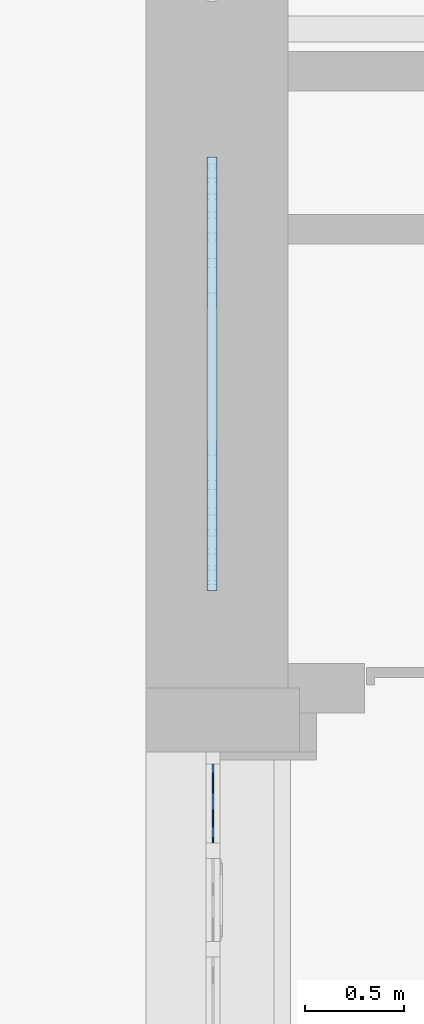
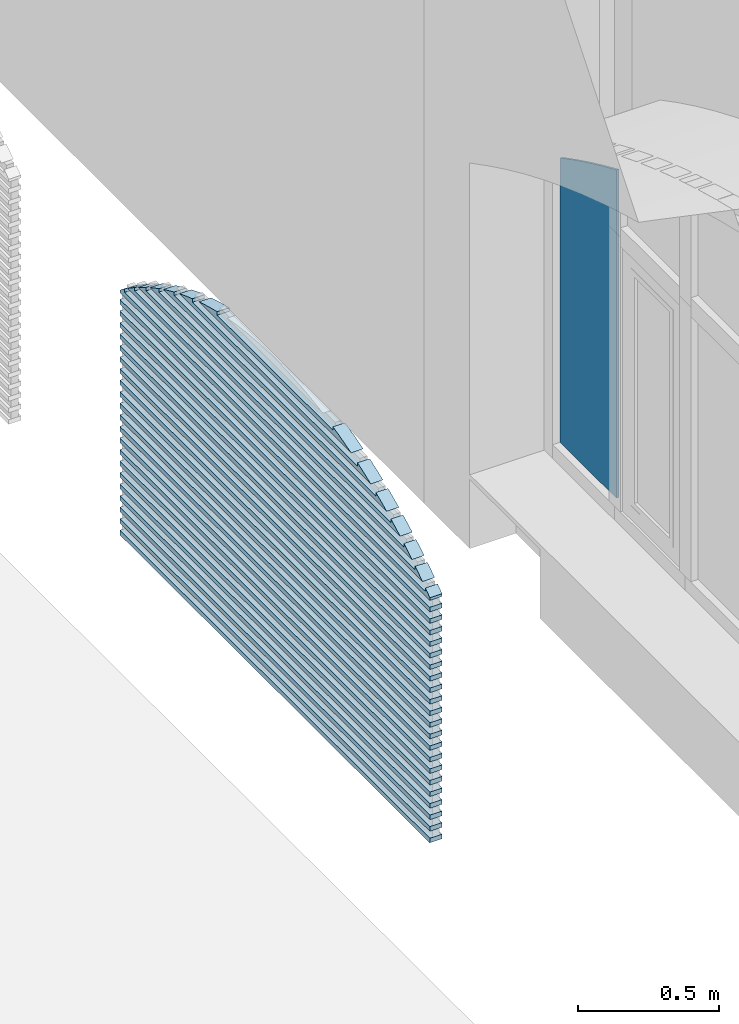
# One storey, part 59 of 88: 29 plates, 2 elements without a shape of their own.
"""IFC2X3 building model written with IfcOpenShell, lengths in millimetres."""

from ifc_helpers import new_model, entity, si_unit, converted_unit, derived_unit, direction, frame, frame_2d, origin, origin_2d_with_axis, place, context, subcontext, project, spatial, polyline, circle_curve, parameter, trimmed, segment, composite_curve, rectangle, outline, extrude, source, transform, mapped, material, type_object, type_shapes, element, aggregate, save


model = new_model("IFC2X3")

# Units and contexts
model_context = context("Model", 3, precision=0.01, world=origin(), true_north=direction((6.123031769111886e-17, 1.0)))
body_context = subcontext(model_context, "Body", "Model", "MODEL_VIEW")
ifc_project = project(units=[si_unit("LENGTHUNIT", "METRE", prefix="MILLI"), si_unit("AREAUNIT", "SQUARE_METRE"), si_unit("VOLUMEUNIT", "CUBIC_METRE"), converted_unit("PLANEANGLEUNIT", "DEGREE", entity("IfcPlaneAngleMeasure", 0.017453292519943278), si_unit("PLANEANGLEUNIT", "RADIAN"), dimensions=[0, 0, 0, 0, 0, 0, 0]), si_unit("MASSUNIT", "GRAM", prefix="KILO"), derived_unit("MASSDENSITYUNIT", [(si_unit("MASSUNIT", "GRAM", prefix="KILO"), 1), (si_unit("LENGTHUNIT", "METRE"), -3)]), derived_unit("IONCONCENTRATIONUNIT", [(si_unit("MASSUNIT", "GRAM", prefix="KILO"), 1), (si_unit("LENGTHUNIT", "METRE"), -3)]), derived_unit("MOMENTOFINERTIAUNIT", [(si_unit("LENGTHUNIT", "METRE"), 4)]), si_unit("TIMEUNIT", "SECOND"), si_unit("FREQUENCYUNIT", "HERTZ"), si_unit("THERMODYNAMICTEMPERATUREUNIT", "DEGREE_CELSIUS"), derived_unit("THERMALTRANSMITTANCEUNIT", [(si_unit("MASSUNIT", "GRAM", prefix="KILO"), 1), (si_unit("THERMODYNAMICTEMPERATUREUNIT", "KELVIN"), -1), (si_unit("TIMEUNIT", "SECOND"), -3)]), derived_unit("THERMALCONDUCTANCEUNIT", [(si_unit("MASSUNIT", "GRAM", prefix="KILO"), 1), (si_unit("THERMODYNAMICTEMPERATUREUNIT", "KELVIN"), -1), (si_unit("TIMEUNIT", "SECOND"), -3), (si_unit("LENGTHUNIT", "METRE"), 1)]), derived_unit("VOLUMETRICFLOWRATEUNIT", [(si_unit("LENGTHUNIT", "METRE", prefix="DECI"), 3), (si_unit("TIMEUNIT", "SECOND"), -1)]), derived_unit("MASSFLOWRATEUNIT", [(si_unit("MASSUNIT", "GRAM", prefix="KILO"), 1), (si_unit("TIMEUNIT", "SECOND"), -1)]), derived_unit("ROTATIONALFREQUENCYUNIT", [(si_unit("TIMEUNIT", "SECOND"), -1)]), si_unit("ELECTRICCURRENTUNIT", "AMPERE"), si_unit("ELECTRICVOLTAGEUNIT", "VOLT"), si_unit("POWERUNIT", "WATT"), si_unit("FORCEUNIT", "NEWTON", prefix="KILO"), si_unit("ILLUMINANCEUNIT", "LUX"), si_unit("LUMINOUSFLUXUNIT", "LUMEN"), si_unit("LUMINOUSINTENSITYUNIT", "CANDELA"), si_unit("ENERGYUNIT", "JOULE"), derived_unit("USERDEFINED", [(si_unit("MASSUNIT", "GRAM", prefix="KILO"), -1), (si_unit("LENGTHUNIT", "METRE"), -2), (si_unit("TIMEUNIT", "SECOND"), 3), (si_unit("LUMINOUSFLUXUNIT", "LUMEN"), 1)]), derived_unit("USERDEFINED", [(si_unit("MASSUNIT", "GRAM", prefix="KILO"), 1), (si_unit("TIMEUNIT", "SECOND"), -3), (si_unit("LENGTHUNIT", "METRE"), 3), (si_unit("ELECTRICCURRENTUNIT", "AMPERE"), -2)]), derived_unit("SOUNDPOWERUNIT", [(si_unit("MASSUNIT", "GRAM", prefix="KILO"), 1), (si_unit("TIMEUNIT", "SECOND"), -3), (si_unit("LENGTHUNIT", "METRE"), 2)]), derived_unit("SOUNDPRESSUREUNIT", [(si_unit("MASSUNIT", "GRAM", prefix="KILO"), 1), (si_unit("LENGTHUNIT", "METRE"), -1), (si_unit("TIMEUNIT", "SECOND"), -2)]), derived_unit("LINEARVELOCITYUNIT", [(si_unit("LENGTHUNIT", "METRE"), 1), (si_unit("TIMEUNIT", "SECOND"), -1)]), si_unit("PRESSUREUNIT", "PASCAL"), derived_unit("USERDEFINED", [(si_unit("MASSUNIT", "GRAM", prefix="KILO"), 1), (si_unit("LENGTHUNIT", "METRE"), -2), (si_unit("TIMEUNIT", "SECOND"), -2)]), derived_unit("LINEARFORCEUNIT", [(si_unit("MASSUNIT", "GRAM", prefix="KILO"), 1), (si_unit("TIMEUNIT", "SECOND"), -2)]), derived_unit("PLANARFORCEUNIT", [(si_unit("MASSUNIT", "GRAM", prefix="KILO"), 1), (si_unit("LENGTHUNIT", "METRE"), -1), (si_unit("TIMEUNIT", "SECOND"), -2)]), derived_unit("SPECIFICHEATCAPACITYUNIT", [(si_unit("THERMODYNAMICTEMPERATUREUNIT", "KELVIN"), -1), (si_unit("LENGTHUNIT", "METRE"), 2), (si_unit("TIMEUNIT", "SECOND"), -2)]), derived_unit("HEATFLUXDENSITYUNIT", [(si_unit("MASSUNIT", "GRAM", prefix="KILO"), 1), (si_unit("TIMEUNIT", "SECOND"), -3)]), derived_unit("HEATINGVALUEUNIT", [(si_unit("LENGTHUNIT", "METRE"), 2), (si_unit("TIMEUNIT", "SECOND"), -2)]), derived_unit("VAPORPERMEABILITYUNIT", [(si_unit("LENGTHUNIT", "METRE"), -1), (si_unit("TIMEUNIT", "SECOND"), 1)]), derived_unit("DYNAMICVISCOSITYUNIT", [(si_unit("MASSUNIT", "GRAM", prefix="KILO"), 1), (si_unit("TIMEUNIT", "SECOND"), -1), (si_unit("LENGTHUNIT", "METRE"), -1)]), derived_unit("THERMALEXPANSIONCOEFFICIENTUNIT", [(si_unit("THERMODYNAMICTEMPERATUREUNIT", "KELVIN"), -1)]), derived_unit("MODULUSOFELASTICITYUNIT", [(si_unit("MASSUNIT", "GRAM", prefix="KILO"), 1), (si_unit("LENGTHUNIT", "METRE"), -1), (si_unit("TIMEUNIT", "SECOND"), -2)]), derived_unit("ISOTHERMALMOISTURECAPACITYUNIT", [(si_unit("MASSUNIT", "GRAM", prefix="KILO"), -1), (si_unit("LENGTHUNIT", "METRE"), 3)]), derived_unit("MOISTUREDIFFUSIVITYUNIT", [(si_unit("TIMEUNIT", "SECOND"), -1), (si_unit("LENGTHUNIT", "METRE"), 2)]), derived_unit("MASSPERLENGTHUNIT", [(si_unit("MASSUNIT", "GRAM", prefix="KILO"), 1), (si_unit("LENGTHUNIT", "METRE"), -1)]), derived_unit("THERMALRESISTANCEUNIT", [(si_unit("MASSUNIT", "GRAM", prefix="KILO"), -1), (si_unit("TIMEUNIT", "SECOND"), 3), (si_unit("THERMODYNAMICTEMPERATUREUNIT", "KELVIN"), 1)]), derived_unit("ACCELERATIONUNIT", [(si_unit("LENGTHUNIT", "METRE"), 1), (si_unit("TIMEUNIT", "SECOND"), -2)]), derived_unit("ANGULARVELOCITYUNIT", [(si_unit("TIMEUNIT", "SECOND"), -1), (si_unit("PLANEANGLEUNIT", "RADIAN"), 1)]), derived_unit("LINEARSTIFFNESSUNIT", [(si_unit("MASSUNIT", "GRAM", prefix="KILO"), 1), (si_unit("TIMEUNIT", "SECOND"), -2)]), derived_unit("WARPINGCONSTANTUNIT", [(si_unit("LENGTHUNIT", "METRE"), 6)]), derived_unit("LINEARMOMENTUNIT", [(si_unit("MASSUNIT", "GRAM", prefix="KILO"), 1), (si_unit("LENGTHUNIT", "METRE"), 1), (si_unit("TIMEUNIT", "SECOND"), -2)]), derived_unit("TORQUEUNIT", [(si_unit("MASSUNIT", "GRAM", prefix="KILO"), 1), (si_unit("LENGTHUNIT", "METRE"), 2), (si_unit("TIMEUNIT", "SECOND"), -2)])], contexts=[model_context])

# Site, building, storey
site_placement = place(None, origin())
site = spatial("IfcSite", under=ifc_project, at=site_placement, Name="Default", CompositionType="ELEMENT")
building_placement = place(site_placement, origin())
building = spatial("IfcBuilding", under=site, at=building_placement, Name="Eesti Rahvusraamatukogu hoone renoveerimise projekteerimistööd", CompositionType="ELEMENT")
storey_placement = place(building_placement, origin())
storey = spatial("IfcBuildingStorey", under=building, at=storey_placement, Name="1. korrus", CompositionType="ELEMENT", Elevation=0.0)

# Curtain wall, plates
curtain_wall_type_1 = type_object("IfcCurtainWallType", Name="Curtain Wall:ol. olev MK vent. rest", PredefinedType="NOTDEFINED")
curtain_wall_1_placement = place(storey_placement, origin())
curtain_wall_1 = element("IfcCurtainWall", 1, at=curtain_wall_1_placement, inside=storey, type_object=curtain_wall_type_1, Name="Curtain Wall:ol. olev MK vent. rest", ObjectType="Curtain Wall:ol. olev MK vent. rest")
ifc_material_1 = material(Name="LUMION_dark steel window frames")
plate_type_1 = type_object("IfcPlateType", Name="System Panel:Solid", PredefinedType="CURTAIN_PANEL", material=ifc_material_1)
shared_shape_1 = source(origin(), body_context, "Body", "SweptSolid", [
    extrude(rectangle(XDim=50.0, YDim=2200.0000000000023, at=origin_2d_with_axis()), frame((0.0, 0.0, 0.0), z_axis=(0.0, 0.0, 1.0), x_axis=(0.0, 1.0, 0.0)), (0.0, 0.0, 1.0), 19.999999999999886),
])
type_shapes(plate_type_1, [shared_shape_1])
plate_1_placement = place(curtain_wall_1_placement, frame((-36445.0, 25910.0, -230.0), z_axis=(0.0, 0.0, 1.0), x_axis=(0.0, -1.0, 0.0)))
plate_1 = element("IfcPlate", 2, at=plate_1_placement, type_object=plate_type_1, material=ifc_material_1, Name="System Panel:Solid", ObjectType="System Panel:Solid", context=body_context, shape_type="MappedRepresentation", body=[
    mapped(shared_shape_1, transform((0.0, 0.0, 0.0), scale=1.0)),
])
plate_2_placement = place(curtain_wall_1_placement, frame((-36445.0, 25910.0, -180.0), z_axis=(0.0, 0.0, 1.0), x_axis=(0.0, -1.0, 0.0)))
plate_2 = element("IfcPlate", 3, at=plate_2_placement, type_object=plate_type_1, material=ifc_material_1, Name="System Panel:Solid", ObjectType="System Panel:Solid", context=body_context, shape_type="MappedRepresentation", body=[
    mapped(shared_shape_1, transform((0.0, 0.0, 0.0), scale=1.0)),
])
plate_3_placement = place(curtain_wall_1_placement, frame((-36445.0, 25910.0, -130.0), z_axis=(0.0, 0.0, 1.0), x_axis=(0.0, -1.0, 0.0)))
plate_3 = element("IfcPlate", 4, at=plate_3_placement, type_object=plate_type_1, material=ifc_material_1, Name="System Panel:Solid", ObjectType="System Panel:Solid", context=body_context, shape_type="MappedRepresentation", body=[
    mapped(shared_shape_1, transform((0.0, 0.0, 0.0), scale=1.0)),
])
plate_4_placement = place(curtain_wall_1_placement, frame((-36445.0, 25910.0, -80.0), z_axis=(0.0, 0.0, 1.0), x_axis=(0.0, -1.0, 0.0)))
plate_4 = element("IfcPlate", 5, at=plate_4_placement, type_object=plate_type_1, material=ifc_material_1, Name="System Panel:Solid", ObjectType="System Panel:Solid", context=body_context, shape_type="MappedRepresentation", body=[
    mapped(shared_shape_1, transform((0.0, 0.0, 0.0), scale=1.0)),
])
plate_5_placement = place(curtain_wall_1_placement, frame((-36445.0, 25910.0, -30.0), z_axis=(0.0, 0.0, 1.0), x_axis=(0.0, -1.0, 0.0)))
plate_5 = element("IfcPlate", 6, at=plate_5_placement, type_object=plate_type_1, material=ifc_material_1, Name="System Panel:Solid", ObjectType="System Panel:Solid", context=body_context, shape_type="MappedRepresentation", body=[
    mapped(shared_shape_1, transform((0.0, 0.0, 0.0), scale=1.0)),
])
plate_6_placement = place(curtain_wall_1_placement, frame((-36445.0, 25910.0, 20.0), z_axis=(0.0, 0.0, 1.0), x_axis=(0.0, -1.0, 0.0)))
plate_6 = element("IfcPlate", 7, at=plate_6_placement, type_object=plate_type_1, material=ifc_material_1, Name="System Panel:Solid", ObjectType="System Panel:Solid", context=body_context, shape_type="MappedRepresentation", body=[
    mapped(shared_shape_1, transform((0.0, 0.0, 0.0), scale=1.0)),
])
plate_7_placement = place(curtain_wall_1_placement, frame((-36445.0, 25910.0, 70.0), z_axis=(0.0, 0.0, 1.0), x_axis=(0.0, -1.0, 0.0)))
plate_7 = element("IfcPlate", 8, at=plate_7_placement, type_object=plate_type_1, material=ifc_material_1, Name="System Panel:Solid", ObjectType="System Panel:Solid", context=body_context, shape_type="MappedRepresentation", body=[
    mapped(shared_shape_1, transform((0.0, 0.0, 0.0), scale=1.0)),
])
plate_8_placement = place(curtain_wall_1_placement, frame((-36445.0, 25910.0, 120.0), z_axis=(0.0, 0.0, 1.0), x_axis=(0.0, -1.0, 0.0)))
plate_8 = element("IfcPlate", 9, at=plate_8_placement, type_object=plate_type_1, material=ifc_material_1, Name="System Panel:Solid", ObjectType="System Panel:Solid", context=body_context, shape_type="MappedRepresentation", body=[
    mapped(shared_shape_1, transform((0.0, 0.0, 0.0), scale=1.0)),
])
plate_9_placement = place(curtain_wall_1_placement, frame((-36445.0, 25910.0, 170.0), z_axis=(0.0, 0.0, 1.0), x_axis=(0.0, -1.0, 0.0)))
plate_9 = element("IfcPlate", 10, at=plate_9_placement, type_object=plate_type_1, material=ifc_material_1, Name="System Panel:Solid", ObjectType="System Panel:Solid", context=body_context, shape_type="MappedRepresentation", body=[
    mapped(shared_shape_1, transform((0.0, 0.0, 0.0), scale=1.0)),
])
plate_10_placement = place(curtain_wall_1_placement, frame((-36445.0, 25910.0, 220.0), z_axis=(0.0, 0.0, 1.0), x_axis=(0.0, -1.0, 0.0)))
plate_10 = element("IfcPlate", 11, at=plate_10_placement, type_object=plate_type_1, material=ifc_material_1, Name="System Panel:Solid", ObjectType="System Panel:Solid", context=body_context, shape_type="MappedRepresentation", body=[
    mapped(shared_shape_1, transform((0.0, 0.0, 0.0), scale=1.0)),
])
plate_11_placement = place(curtain_wall_1_placement, frame((-36445.0, 25910.0, 270.0), z_axis=(0.0, 0.0, 1.0), x_axis=(0.0, -1.0, 0.0)))
plate_11 = element("IfcPlate", 12, at=plate_11_placement, type_object=plate_type_1, material=ifc_material_1, Name="System Panel:Solid", ObjectType="System Panel:Solid", context=body_context, shape_type="MappedRepresentation", body=[
    mapped(shared_shape_1, transform((0.0, 0.0, 0.0), scale=1.0)),
])
plate_12_placement = place(curtain_wall_1_placement, frame((-36445.0, 25910.0, 320.0), z_axis=(0.0, 0.0, 1.0), x_axis=(0.0, -1.0, 0.0)))
plate_12 = element("IfcPlate", 13, at=plate_12_placement, type_object=plate_type_1, material=ifc_material_1, Name="System Panel:Solid", ObjectType="System Panel:Solid", context=body_context, shape_type="MappedRepresentation", body=[
    mapped(shared_shape_1, transform((0.0, 0.0, 0.0), scale=1.0)),
])
plate_13_placement = place(curtain_wall_1_placement, frame((-36445.0, 25910.0, 370.0), z_axis=(0.0, 0.0, 1.0), x_axis=(0.0, -1.0, 0.0)))
plate_13 = element("IfcPlate", 14, at=plate_13_placement, type_object=plate_type_1, material=ifc_material_1, Name="System Panel:Solid", ObjectType="System Panel:Solid", context=body_context, shape_type="MappedRepresentation", body=[
    mapped(shared_shape_1, transform((0.0, 0.0, 0.0), scale=1.0)),
])
plate_14_placement = place(curtain_wall_1_placement, frame((-36445.0, 25910.0, 420.0), z_axis=(0.0, 0.0, 1.0), x_axis=(0.0, -1.0, 0.0)))
plate_14 = element("IfcPlate", 15, at=plate_14_placement, type_object=plate_type_1, material=ifc_material_1, Name="System Panel:Solid", ObjectType="System Panel:Solid", context=body_context, shape_type="MappedRepresentation", body=[
    mapped(shared_shape_1, transform((0.0, 0.0, 0.0), scale=1.0)),
])
plate_15_placement = place(curtain_wall_1_placement, frame((-36445.0, 25910.0, 470.0), z_axis=(0.0, 0.0, 1.0), x_axis=(0.0, -1.0, 0.0)))
plate_15 = element("IfcPlate", 16, at=plate_15_placement, type_object=plate_type_1, material=ifc_material_1, Name="System Panel:Solid", ObjectType="System Panel:Solid", context=body_context, shape_type="MappedRepresentation", body=[
    mapped(shared_shape_1, transform((0.0, 0.0, 0.0), scale=1.0)),
])
plate_16_placement = place(curtain_wall_1_placement, frame((-36445.0, 25910.0, 520.0), z_axis=(0.0, 0.0, 1.0), x_axis=(0.0, -1.0, 0.0)))
plate_16 = element("IfcPlate", 17, at=plate_16_placement, type_object=plate_type_1, material=ifc_material_1, Name="System Panel:Solid", ObjectType="System Panel:Solid", context=body_context, shape_type="MappedRepresentation", body=[
    mapped(shared_shape_1, transform((0.0, 0.0, 0.0), scale=1.0)),
])
plate_17_placement = place(curtain_wall_1_placement, frame((-36445.0, 25910.0, 570.0), z_axis=(0.0, 0.0, 1.0), x_axis=(0.0, -1.0, 0.0)))
plate_17 = element("IfcPlate", 18, at=plate_17_placement, type_object=plate_type_1, material=ifc_material_1, Name="System Panel:Solid", ObjectType="System Panel:Solid", context=body_context, shape_type="MappedRepresentation", body=[
    mapped(shared_shape_1, transform((0.0, 0.0, 0.0), scale=1.0)),
])
plate_18_placement = place(curtain_wall_1_placement, frame((-36445.0, 25910.0, 620.0), z_axis=(0.0, 0.0, 1.0), x_axis=(0.0, -1.0, 0.0)))
plate_18 = element("IfcPlate", 19, at=plate_18_placement, type_object=plate_type_1, material=ifc_material_1, Name="System Panel:Solid", ObjectType="System Panel:Solid", context=body_context, shape_type="MappedRepresentation", body=[
    mapped(shared_shape_1, transform((0.0, 0.0, 0.0), scale=1.0)),
])
plate_19_placement = place(curtain_wall_1_placement, frame((-36445.0, 25910.0, 670.0), z_axis=(0.0, 0.0, 1.0), x_axis=(0.0, -1.0, 0.0)))
plate_19 = element("IfcPlate", 20, at=plate_19_placement, type_object=plate_type_1, material=ifc_material_1, Name="System Panel:Solid", ObjectType="System Panel:Solid", context=body_context, shape_type="MappedRepresentation", body=[
    mapped(shared_shape_1, transform((0.0, 0.0, 0.0), scale=1.0)),
])
plate_20_placement = place(curtain_wall_1_placement, frame((-36445.0, 25910.0, 720.0), z_axis=(0.0, 0.0, 1.0), x_axis=(0.0, -1.0, 0.0)))
plate_20 = element("IfcPlate", 21, at=plate_20_placement, type_object=plate_type_1, material=ifc_material_1, Name="System Panel:Solid", ObjectType="System Panel:Solid", context=body_context, shape_type="MappedRepresentation", body=[
    mapped(shared_shape_1, transform((0.0, 0.0, 0.0), scale=1.0)),
])
plate_21_placement = place(curtain_wall_1_placement, frame((-36445.0, 25910.0, 770.0), z_axis=(0.0, 0.0, 1.0), x_axis=(0.0, -1.0, 0.0)))
plate_21 = element("IfcPlate", 22, at=plate_21_placement, type_object=plate_type_1, material=ifc_material_1, Name="System Panel:Solid", ObjectType="System Panel:Solid", context=body_context, shape_type="MappedRepresentation", body=[
    mapped(shared_shape_1, transform((0.0, 0.0, 0.0), scale=1.0)),
])
plate_type_2 = type_object("IfcPlateType", Name="System Panel:Solid", PredefinedType="CURTAIN_PANEL", material=ifc_material_1)
shared_shape_2 = source(origin(), body_context, "Body", "SweptSolid", [
    extrude(outline(composite_curve([segment(polyline([(-16.44483337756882, -1100.5114047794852), (-6.444833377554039, -1100.5114047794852)]), True, "CONTINUOUS"), segment(trimmed(circle_curve(frame_2d((-1449.322804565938, 0.5114047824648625), x_axis=(0.8087576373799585, -0.5881420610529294)), 1814.9788061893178), [parameter(358.6789588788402)], [parameter(0.0)], True, "PARAMETER"), True, "CONTINUOUS"), segment(polyline([(18.555166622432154, -1066.9539710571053), (3.555166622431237, -1066.9539710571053)]), True, "CONTINUOUS"), segment(polyline([(3.555166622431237, -1066.9539710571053), (3.555166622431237, 1067.9767806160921)]), True, "CONTINUOUS"), segment(polyline([(3.555166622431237, 1067.9767806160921), (18.55516662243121, 1067.9767806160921)]), True, "CONTINUOUS"), segment(trimmed(circle_curve(frame_2d((-1449.3228045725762, 0.5114047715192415), x_axis=(0.7958421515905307, 0.6055041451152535)), 1814.9788061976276), [parameter(358.7601452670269)], [parameter(0.0)], True, "PARAMETER"), True, "CONTINUOUS"), segment(polyline([(-4.886166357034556, 1099.4885952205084), (-16.44483337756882, 1099.4885952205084)]), True, "CONTINUOUS"), segment(polyline([(-16.44483337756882, 1099.4885952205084), (-16.44483337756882, -1100.5114047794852)]), True, "CONTINUOUS")], self_intersect=False)), frame((0.5114047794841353, -25.0, 16.44483337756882), z_axis=(0.0, 1.0, 0.0), x_axis=(0.0, 0.0, 1.0)), (0.0, 0.0, 1.0), 50.0),
])
type_shapes(plate_type_2, [shared_shape_2])
plate_22_placement = place(curtain_wall_1_placement, frame((-36445.0, 25910.0, 820.0), z_axis=(0.0, 0.0, 1.0), x_axis=(0.0, -1.0, 0.0)))
plate_22 = element("IfcPlate", 23, at=plate_22_placement, type_object=plate_type_2, material=ifc_material_1, Name="System Panel:Solid", ObjectType="System Panel:Solid", context=body_context, shape_type="MappedRepresentation", body=[
    mapped(shared_shape_2, transform((0.0, 0.0, 0.0), scale=1.0)),
])
plate_type_3 = type_object("IfcPlateType", Name="System Panel:Solid", PredefinedType="CURTAIN_PANEL", material=ifc_material_1)
shared_shape_3 = source(origin(), body_context, "Body", "SweptSolid", [
    extrude(outline(composite_curve([segment(trimmed(circle_curve(frame_2d((-1255.4722740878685, -823.058169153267), x_axis=(1.0, 0.0)), 1814.9788061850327), [parameter(358.0357142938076)], [parameter(0.0)], True, "PARAMETER"), True, "CONTINUOUS"), segment(polyline([(559.5065320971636, -823.0581691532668), (546.9619395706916, -831.282109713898)]), True, "CONTINUOUS"), segment(polyline([(546.9619395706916, -831.282109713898), (-544.174252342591, 833.1096520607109)]), True, "CONTINUOUS"), segment(polyline([(-544.174252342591, 833.1096520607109), (-531.6296598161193, 841.3335926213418)]), True, "CONTINUOUS"), segment(trimmed(circle_curve(frame_2d((-1255.4722740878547, -823.0581691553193), x_axis=(0.35391264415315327, 0.9352784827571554)), 1814.9788061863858), [parameter(357.2226348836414)], [parameter(359.1869205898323)], True, "PARAMETER"), True, "CONTINUOUS"), segment(polyline([(-589.1045861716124, 865.1663927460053), (558.4400266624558, -885.2693585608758)]), True, "CONTINUOUS")], self_intersect=False)), frame((0.0, -25.0, 18.333333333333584), z_axis=(0.0, 1.0, 0.0), x_axis=(-0.5482627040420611, 0.0, 0.8363061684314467)), (0.0, 0.0, 1.0), 50.0),
])
type_shapes(plate_type_3, [shared_shape_3])
plate_23_placement = place(curtain_wall_1_placement, frame((-36445.0, 25908.977190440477, 870.0), z_axis=(0.0, 0.0, 1.0), x_axis=(0.0, -1.0, 0.0)))
plate_23 = element("IfcPlate", 24, at=plate_23_placement, type_object=plate_type_3, material=ifc_material_1, Name="System Panel:Solid", ObjectType="System Panel:Solid", context=body_context, shape_type="MappedRepresentation", body=[
    mapped(shared_shape_3, transform((0.0, 0.0, 0.0), scale=1.0)),
])
plate_type_4 = type_object("IfcPlateType", Name="System Panel:Solid", PredefinedType="CURTAIN_PANEL", material=ifc_material_1)
shared_shape_4 = source(origin(), body_context, "Body", "SweptSolid", [
    extrude(outline(composite_curve([segment(trimmed(circle_curve(frame_2d((-1340.021175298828, -781.4088309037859), x_axis=(1.0, 0.0)), 1814.978806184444), [parameter(357.87378894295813)], [parameter(0.0)], True, "PARAMETER"), True, "CONTINUOUS"), segment(polyline([(474.95763088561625, -781.4088309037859), (461.99981039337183, -788.9649468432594)]), True, "CONTINUOUS"), segment(polyline([(461.99981039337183, -788.9649468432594), (-459.1202947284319, 790.6440837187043)]), True, "CONTINUOUS"), segment(polyline([(-459.1202947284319, 790.6440837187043), (-446.16247423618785, 798.2001996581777)]), True, "CONTINUOUS"), segment(trimmed(circle_curve(frame_2d((-1340.021175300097, -781.4088309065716), x_axis=(0.4462645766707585, 0.8949010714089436)), 1814.9788061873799), [parameter(356.99990824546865)], [parameter(359.12611930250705)], True, "PARAMETER"), True, "CONTINUOUS"), segment(polyline([(-505.38273719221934, 830.2756123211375), (473.70806487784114, -848.746117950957)]), True, "CONTINUOUS")], self_intersect=False)), frame((0.0, -25.0, 18.33333333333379), z_axis=(0.0, 1.0, 0.0), x_axis=(-0.5037410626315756, 0.0, 0.8638546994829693)), (0.0, 0.0, 1.0), 49.999999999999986),
])
type_shapes(plate_type_4, [shared_shape_4])
plate_24_placement = place(curtain_wall_1_placement, frame((-36445.0, 25908.977190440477, 920.0), z_axis=(0.0, 0.0, 1.0), x_axis=(0.0, -1.0, 0.0)))
plate_24 = element("IfcPlate", 25, at=plate_24_placement, type_object=plate_type_4, material=ifc_material_1, Name="System Panel:Solid", ObjectType="System Panel:Solid", context=body_context, shape_type="MappedRepresentation", body=[
    mapped(shared_shape_4, transform((0.0, 0.0, 0.0), scale=1.0)),
])
plate_type_5 = type_object("IfcPlateType", Name="System Panel:Solid", PredefinedType="CURTAIN_PANEL", material=ifc_material_1)
shared_shape_5 = source(origin(), body_context, "Body", "SweptSolid", [
    extrude(outline(composite_curve([segment(trimmed(circle_curve(frame_2d((-1427.3249296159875, -725.6867003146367), x_axis=(1.0, 0.0)), 1814.9788061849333), [parameter(357.65574356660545)], [parameter(0.0)], True, "PARAMETER"), True, "CONTINUOUS"), segment(polyline([(387.65387656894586, -725.6867003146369), (374.28282811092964, -732.4848664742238)]), True, "CONTINUOUS"), segment(polyline([(374.28282811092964, -732.4848664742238), (-371.31148400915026, 733.9955700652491)]), True, "CONTINUOUS"), segment(polyline([(-371.31148400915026, 733.9955700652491), (-357.9404355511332, 740.7937362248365)]), True, "CONTINUOUS"), segment(trimmed(circle_curve(frame_2d((-1427.3249296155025, -725.6867003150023), x_axis=(0.541741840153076, 0.8405449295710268)), 1814.9788061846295), [parameter(356.70207384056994)], [parameter(359.04633027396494)], True, "PARAMETER"), True, "CONTINUOUS"), segment(polyline([(-418.8197030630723, 783.3080892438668), (386.13491794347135, -799.9258287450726)]), True, "CONTINUOUS")], self_intersect=False)), frame((0.0, -25.0, 18.33333333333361), z_axis=(0.0, 1.0, 0.0), x_axis=(-0.45321107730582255, 0.0, 0.8914032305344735)), (0.0, 0.0, 1.0), 50.0),
])
type_shapes(plate_type_5, [shared_shape_5])
plate_25_placement = place(curtain_wall_1_placement, frame((-36445.0, 25908.977190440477, 970.0), z_axis=(0.0, 0.0, 1.0), x_axis=(0.0, -1.0, 0.0)))
plate_25 = element("IfcPlate", 26, at=plate_25_placement, type_object=plate_type_5, material=ifc_material_1, Name="System Panel:Solid", ObjectType="System Panel:Solid", context=body_context, shape_type="MappedRepresentation", body=[
    mapped(shared_shape_5, transform((0.0, 0.0, 0.0), scale=1.0)),
])
plate_type_6 = type_object("IfcPlateType", Name="System Panel:Solid", PredefinedType="CURTAIN_PANEL", material=ifc_material_1)
shared_shape_6 = source(origin(), body_context, "Body", "SweptSolid", [
    extrude(outline(composite_curve([segment(trimmed(circle_curve(frame_2d((-1517.3835370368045, -651.1881246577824), x_axis=(1.0, 0.0)), 1814.9788061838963), [parameter(357.34111943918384)], [parameter(0.0)], True, "PARAMETER"), True, "CONTINUOUS"), segment(polyline([(297.5952691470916, -651.1881246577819), (283.81099272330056, -657.1036739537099)]), True, "CONTINUOUS"), segment(polyline([(283.81099272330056, -657.1036739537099), (-280.74782018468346, 658.4182404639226)]), True, "CONTINUOUS"), segment(polyline([(-280.74782018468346, 658.4182404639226), (-266.96354376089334, 664.3337897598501)]), True, "CONTINUOUS"), segment(trimmed(circle_curve(frame_2d((-1517.3835370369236, -651.1881246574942), x_axis=(0.6404237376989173, 0.7680217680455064)), 1814.978806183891), [parameter(356.2767946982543)], [parameter(358.9356752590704)], True, "PARAMETER"), True, "CONTINUOUS"), segment(polyline([(-329.33620551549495, 720.9239716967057), (295.64130759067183, -735.3842033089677)]), True, "CONTINUOUS")], self_intersect=False)), frame((0.0, -25.0, 18.3333333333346), z_axis=(0.0, 1.0, 0.0), x_axis=(-0.39436995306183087, 0.0, 0.9189517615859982)), (0.0, 0.0, 1.0), 50.0),
])
type_shapes(plate_type_6, [shared_shape_6])
plate_26_placement = place(curtain_wall_1_placement, frame((-36445.0, 25908.977190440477, 1020.0), z_axis=(0.0, 0.0, 1.0), x_axis=(0.0, -1.0, 0.0)))
plate_26 = element("IfcPlate", 27, at=plate_26_placement, type_object=plate_type_6, material=ifc_material_1, Name="System Panel:Solid", ObjectType="System Panel:Solid", context=body_context, shape_type="MappedRepresentation", body=[
    mapped(shared_shape_6, transform((0.0, 0.0, 0.0), scale=1.0)),
])
plate_type_7 = type_object("IfcPlateType", Name="System Panel:Solid", PredefinedType="CURTAIN_PANEL", material=ifc_material_1)
shared_shape_7 = source(origin(), body_context, "Body", "SweptSolid", [
    extrude(outline(composite_curve([segment(trimmed(circle_curve(frame_2d((-1610.1969975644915, -548.9859120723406), x_axis=(1.0, 0.0)), 1814.9788061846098), [parameter(356.83143327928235)], [parameter(0.0)], True, "PARAMETER"), True, "CONTINUOUS"), segment(polyline([(204.78180862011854, -548.9859120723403), (190.58430423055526, -553.8264563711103)]), True, "CONTINUOUS"), segment(polyline([(190.58430423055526, -553.8264563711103), (-187.4293032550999, 554.9021328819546)]), True, "CONTINUOUS"), segment(polyline([(-187.4293032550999, 554.9021328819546), (-173.2317988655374, 559.7426771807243)]), True, "CONTINUOUS"), segment(trimmed(circle_curve(frame_2d((-1610.1969975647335, -548.985912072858), x_axis=(0.7425237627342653, 0.6698197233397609)), 1814.978806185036), [parameter(355.5997816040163)], [parameter(358.76834832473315)], True, "PARAMETER"), True, "CONTINUOUS"), segment(polyline([(-236.71214944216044, 637.4741331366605), (202.0071387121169, -649.3065747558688)]), True, "CONTINUOUS")], self_intersect=False)), frame((0.0, -25.0, 18.33333333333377), z_axis=(0.0, 1.0, 0.0), x_axis=(-0.3227029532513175, 0.0, 0.9465002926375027)), (0.0, 0.0, 1.0), 49.999999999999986),
])
type_shapes(plate_type_7, [shared_shape_7])
plate_27_placement = place(curtain_wall_1_placement, frame((-36445.0, 25908.977190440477, 1070.0), z_axis=(0.0, 0.0, 1.0), x_axis=(0.0, -1.0, 0.0)))
plate_27 = element("IfcPlate", 28, at=plate_27_placement, type_object=plate_type_7, material=ifc_material_1, Name="System Panel:Solid", ObjectType="System Panel:Solid", context=body_context, shape_type="MappedRepresentation", body=[
    mapped(shared_shape_7, transform((0.0, 0.0, 0.0), scale=1.0)),
])
plate_type_8 = type_object("IfcPlateType", Name="System Panel:Solid", PredefinedType="CURTAIN_PANEL", material=ifc_material_1)
shared_shape_8 = source(origin(), body_context, "Body", "SweptSolid", [
    extrude(outline(composite_curve([segment(trimmed(circle_curve(frame_2d((-1705.7653111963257, -396.36565970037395), x_axis=(1.0, 0.0)), 1814.978806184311), [parameter(355.7823505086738)], [parameter(0.0)], True, "PARAMETER"), True, "CONTINUOUS"), segment(polyline([(109.21349498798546, -396.36565970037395), (94.60276263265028, -399.7607296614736)]), True, "CONTINUOUS"), segment(polyline([(94.60276263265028, -399.7607296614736), (-91.35593322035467, 400.51518965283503)]), True, "CONTINUOUS"), segment(polyline([(-91.35593322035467, 400.51518965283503), (-76.7452008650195, 403.91025961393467)]), True, "CONTINUOUS"), segment(trimmed(circle_curve(frame_2d((-1705.765311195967, -396.3656597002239), x_axis=(0.8488975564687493, 0.5285574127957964)), 1814.9788061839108), [parameter(354.2551026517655)], [parameter(358.4727521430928)], True, "PARAMETER"), True, "CONTINUOUS"), segment(polyline([(-140.01341903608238, 521.5499568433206), (104.2982955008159, -529.8490167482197)]), True, "CONTINUOUS")], self_intersect=False)), frame((0.0, -25.0, 18.333333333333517), z_axis=(0.0, 1.0, 0.0), x_axis=(-0.22633799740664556, 0.0, 0.9740488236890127)), (0.0, 0.0, 1.0), 50.0),
])
type_shapes(plate_type_8, [shared_shape_8])
plate_28_placement = place(curtain_wall_1_placement, frame((-36445.0, 25908.977190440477, 1120.0), z_axis=(0.0, 0.0, 1.0), x_axis=(0.0, -1.0, 0.0)))
plate_28 = element("IfcPlate", 29, at=plate_28_placement, type_object=plate_type_8, material=ifc_material_1, Name="System Panel:Solid", ObjectType="System Panel:Solid", context=body_context, shape_type="MappedRepresentation", body=[
    mapped(shared_shape_8, transform((0.0, 0.0, 0.0), scale=1.0)),
])
aggregate(curtain_wall_1, [plate_1, plate_2, plate_3, plate_4, plate_5, plate_6, plate_7, plate_8, plate_9, plate_10, plate_11, plate_12, plate_13, plate_14, plate_15, plate_16, plate_17, plate_18, plate_19, plate_20, plate_21, plate_22, plate_23, plate_24, plate_25, plate_26, plate_27, plate_28])

# Curtain wall, plate
curtain_wall_type_2 = type_object("IfcCurtainWallType", Name="Curtain Wall:Ak-02", PredefinedType="NOTDEFINED")
curtain_wall_2_placement = place(storey_placement, origin())
curtain_wall_2 = element("IfcCurtainWall", 30, at=curtain_wall_2_placement, inside=storey, type_object=curtain_wall_type_2, Name="Curtain Wall:Ak-02", ObjectType="Curtain Wall:Ak-02")
ifc_material_2 = material(Name="EST. Klaas. 3x. Default")
plate_type_9 = type_object("IfcPlateType", Name="System Panel:Peegelaknad 6-16-4-16-4, paneel", PredefinedType="CURTAIN_PANEL", material=ifc_material_2)
shared_shape_9 = source(origin(), body_context, "Body", "SweptSolid", [
    extrude(outline(composite_curve([segment(polyline([(-838.8855000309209, -200.0), (351.11449996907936, -200.0)]), True, "CONTINUOUS"), segment(polyline([(351.11449996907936, -200.0), (392.3931648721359, -200.0)]), True, "CONTINUOUS"), segment(trimmed(circle_curve(frame_2d((-4419.029401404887, 2340.0), x_axis=(0.9248280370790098, -0.38038546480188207)), 5440.715680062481), [parameter(354.5275221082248)], [parameter(359.19566238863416)], True, "PARAMETER"), True, "CONTINUOUS"), segment(polyline([(583.1488352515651, 200.0), (351.11449996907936, 200.0)]), True, "CONTINUOUS"), segment(polyline([(351.11449996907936, 200.0), (-838.8855000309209, 200.0)]), True, "CONTINUOUS"), segment(polyline([(-838.8855000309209, 200.0), (-838.8855000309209, -200.0)]), True, "CONTINUOUS")], self_intersect=False)), frame((0.0, -5.0, 838.8855000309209), z_axis=(0.0, 1.0, 0.0), x_axis=(0.0, 0.0, 1.0)), (0.0, 0.0, 1.0), 10.0),
])
type_shapes(plate_type_9, [shared_shape_9])
plate_29_placement = place(curtain_wall_2_placement, frame((-36440.0, 23730.0, 2030.0), z_axis=(0.0, 0.0, 1.0), x_axis=(0.0, -1.0, 0.0)))
plate_29 = element("IfcPlate", 31, at=plate_29_placement, type_object=plate_type_9, material=ifc_material_2, Name="System Panel:Peegelaknad 6-16-4-16-4, paneel", ObjectType="System Panel:Peegelaknad 6-16-4-16-4, paneel", context=body_context, shape_type="MappedRepresentation", body=[
    mapped(shared_shape_9, transform((0.0, 0.0, 0.0), scale=1.0)),
])
aggregate(curtain_wall_2, [plate_29])

save(model, "model.ifc")
